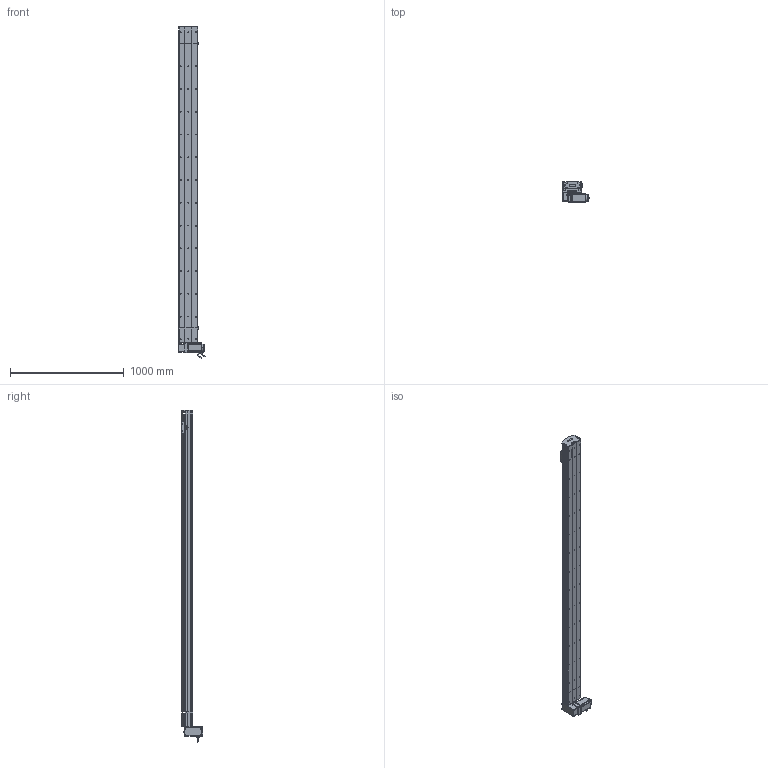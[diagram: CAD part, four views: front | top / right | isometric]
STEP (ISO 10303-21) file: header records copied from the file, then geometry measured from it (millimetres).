
FILE_DESCRIPTION (( 'STEP AP214' ), '1' );
FILE_NAME ('D17 TBN RU S2500.STEP', '2010-06-30T12:54:49', ( 'Conseil Régional Haute-Normandie' ), ( 'Conseil Régional Haute-Normandie' ), 'SwSTEP 2.0', 'SolidWorks 2010', '' );
FILE_SCHEMA (( 'AUTOMOTIVE_DESIGN' ));
Length unit declared in the file: millimetre
Products named in the file (40): codeur 90BLDC125-640; Couroie tail D17B_Default; poulie tail_Default; plaque de  bout tail D17B_Default; Rail D17B; cache arbre D17_Default; Vis M5 L16-2_Default; vis M5 L16_Default; tete d''axe poulie D17B; corp tail D17B+100_Default; Tail D17B+100_Default; Renvoi RU_Default; Plaque racord D17_Default; vis M5 L70_Default; Conecteur_Default; Conecteur2_Default; couvercle D17B_Default; guide D17; Chariot D17 TBN; chariot D17 TBN; vis M5 L25_Default; vis M5 L12_Default; vis M5 L8 90°_Default; course 2500 D17B_Default; D17 TBN RU S2500; couvercle D17B course L2500_Default; corp D17B 2500_Default; Couroie+ rail D17 Course 2500 ; couvercle D17B head_Default; corpl head D17 _Default; Head RU D17B_Default; cache D17_Default; Arbre+rail head D17B; plaque de  bout head D17B RU_Default; couroie head D17_Default; poulie head_Default; vis M5 L5_Default; corps 90BLDC125A-640; avant 90BLDC125A-640; Moteur motionking 90BLDC125A-640
Assembly tree (66 placements, depth 4):
  D17 TBN RU S2500
    course 2500 D17B_Default
      corp D17B 2500_Default
      Couroie+ rail D17 Course 2500 
      couvercle D17B course L2500_Default
    Tail D17B+100_Default
      Couroie tail D17B_Default
      poulie tail_Default
      couvercle D17B_Default
      vis M5 L25_Default  x2
      vis M5 L12_Default  x4
      Rail D17B
      vis M5 L8 90°_Default  x2
      corp tail D17B+100_Default
      plaque de  bout tail D17B_Default
      tete d''axe poulie D17B
    chariot D17 TBN
      guide D17  x2
      Chariot D17 TBN
    Head RU D17B_Default
      vis M5 L70_Default  x4
      Moteur motionking 90BLDC125A-640
        corps 90BLDC125A-640
        Conecteur_Default
        Conecteur2_Default
        codeur 90BLDC125-640
        avant 90BLDC125A-640
      Plaque racord D17_Default
      vis M5 L12_Default  x8
      vis M5 L5_Default  x4
      Vis M5 L16-2_Default  x4
      couroie head D17_Default
      cache D17_Default  x2
      vis M5 L16_Default  x2
      Arbre+rail head D17B
      couvercle D17B head_Default
      vis M5 L25_Default  x2
      corpl head D17 _Default
      cache arbre D17_Default
      poulie head_Default
      plaque de  bout head D17B RU_Default
      Renvoi RU_Default
Bounding box: 245.2 x 188.65 x 2917.95 mm (x, y, z)
Volume: 16730726.9 mm3; surface area: 4862192 mm2
Topology: 89 solids, 89 shells, 2631 faces, 6755 edges, 4354 vertices
Faces by surface type: plane 1537, cylinder 797, bspline 136, cone 80, torus 77, sphere 4
Entity records: 85605 total; most frequent: CARTESIAN_POINT 25401, ORIENTED_EDGE 10682, DIRECTION 10078, EDGE_CURVE 5341, VECTOR 3508, LINE 3508, VERTEX_POINT 3498, AXIS2_PLACEMENT_3D 3285
